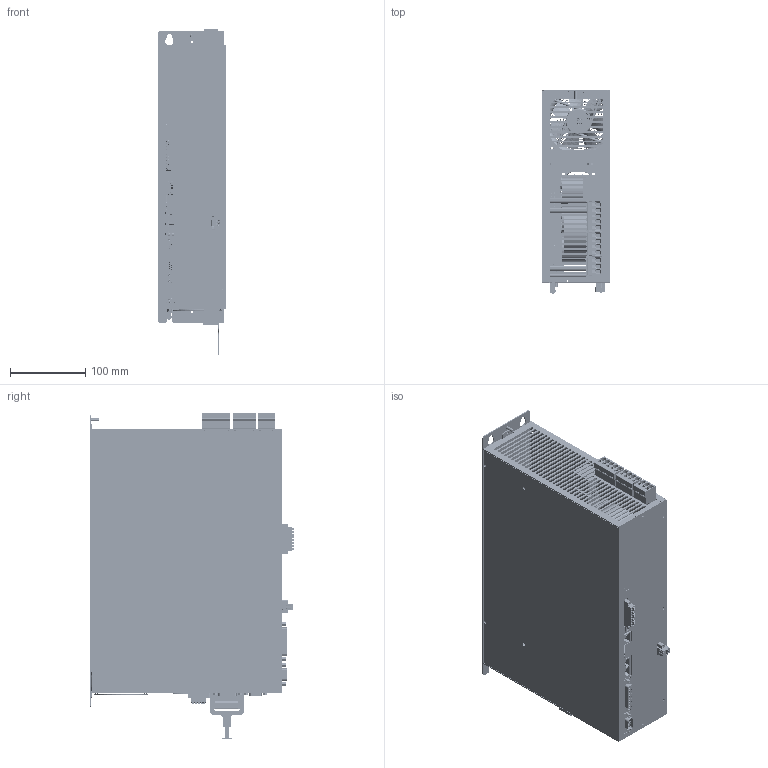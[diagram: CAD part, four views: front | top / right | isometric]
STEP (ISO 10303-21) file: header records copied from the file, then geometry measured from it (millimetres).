
FILE_DESCRIPTION(('STEP AP214'),'1');
FILE_NAME('D:/SUBVERSION/BasicLine_PROJ/HW/MECHANIK/Komplettgeräte/Komplettgerät_BL4320C_0p1_Doku.stp','2022-12-14T16:15:52',(''),(''),'Spatial InterOp 3D',' ',' ');
FILE_SCHEMA(('automotive_design'));
Length unit declared in the file: inch
Products named in the file (212): ACIS-VolumenkÃ¶rper_465; ACIS-VolumenkÃ¶rper_507; ACIS-VolumenkÃ¶rper_513; ACIS-VolumenkÃ¶rper_519; ACIS-VolumenkÃ¶rper_525; ACIS-VolumenkÃ¶rper_531; ACIS-VolumenkÃ¶rper_537; ACIS-VolumenkÃ¶rper_543; ACIS-VolumenkÃ¶rper_549; ACIS-VolumenkÃ¶rper_555; ACIS-VolumenkÃ¶rper_565; ACIS-VolumenkÃ¶rper_571; ACIS-VolumenkÃ¶rper_577; ACIS-VolumenkÃ¶rper_583; ACIS-VolumenkÃ¶rper_589; ACIS-VolumenkÃ¶rper_595; ACIS-VolumenkÃ¶rper_613; ACIS-VolumenkÃ¶rper_619; ACIS-VolumenkÃ¶rper_651; ACIS-VolumenkÃ¶rper_665; ACIS-VolumenkÃ¶rper_679; ACIS-VolumenkÃ¶rper_693; ACIS-VolumenkÃ¶rper_707; ACIS-VolumenkÃ¶rper_713; ACIS-VolumenkÃ¶rper_719; ACIS-VolumenkÃ¶rper_725; ACIS-VolumenkÃ¶rper_731; ACIS-VolumenkÃ¶rper_737; ACIS-VolumenkÃ¶rper_743; ACIS-VolumenkÃ¶rper_749; ACIS-VolumenkÃ¶rper_763; ACIS-VolumenkÃ¶rper_777; ACIS-VolumenkÃ¶rper_791; ACIS-VolumenkÃ¶rper_805; ACIS-VolumenkÃ¶rper_819; ACIS-VolumenkÃ¶rper_833; ACIS-VolumenkÃ¶rper_847; ACIS-VolumenkÃ¶rper_861; ACIS-VolumenkÃ¶rper_875; ACIS-VolumenkÃ¶rper_889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
Bounding box: 90.5 x 271.9 x 434.8 mm (x, y, z)
Volume: 1614285.5 mm3; surface area: 1052880.8 mm2
Topology: 211 solids, 211 shells, 14651 faces, 38970 edges, 25713 vertices
Faces by surface type: plane 9739, cylinder 3180, bspline 764, cone 611, torus 255, sphere 102
Full cylindrical faces by diameter (mm): 0.44 x5, 0.46 x10, 0.76 x10, 0.85 x10, 1.1 x20, 1.28 x5, 1.305 x5, 1.34 x10, 1.5 x2
Entity records: 620527 total; most frequent: CARTESIAN_POINT 132877, ORIENTED_EDGE 77052, DIRECTION 72482, EDGE_CURVE 38526, LINE 27906, VECTOR 27906, VERTEX_POINT 25419, AXIS2_PLACEMENT_3D 22288
